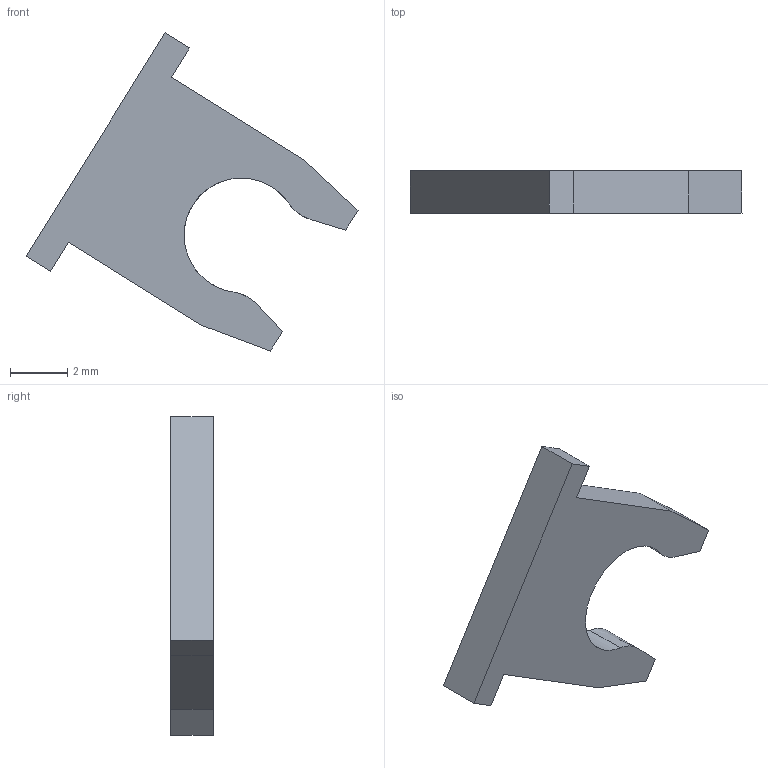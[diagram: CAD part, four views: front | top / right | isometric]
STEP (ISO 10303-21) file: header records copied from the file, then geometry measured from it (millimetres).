
FILE_DESCRIPTION(('CATIA V5 STEP Exchange'),'2;1');
FILE_NAME('C:\Users\Administrator\Desktop\座椅主动阻尼控制系统样件采购申请-\数模\573.4601.07_V1（BPC0010041）.stp','2021-01-28T05:12:10+00:00',('none'),('none'),'CATIA Version 5 Release 21 GA (IN-10)','CATIA V5 STEP AP214','none');
FILE_SCHEMA(('AUTOMOTIVE_DESIGN { 1 0 10303 214 1 1 1 1 }'));
Length unit declared in the file: millimetre
Products named in the file (1): 573.4601.07_V1
Bounding box: 11.61 x 1.5 x 11.13 mm (x, y, z)
Volume: 67.3 mm3; surface area: 155.4 mm2
Topology: 1 solids, 1 shells, 19 faces, 51 edges, 34 vertices
Faces by surface type: plane 15, bspline 2, cylinder 2
Entity records: 876 total; most frequent: CARTESIAN_POINT 271, ORIENTED_EDGE 102, DIRECTION 74, EDGE_CURVE 51, VECTOR 40, LINE 40, VERTEX_POINT 34, PRESENTATION_STYLE_ASSIGNMENT 20
